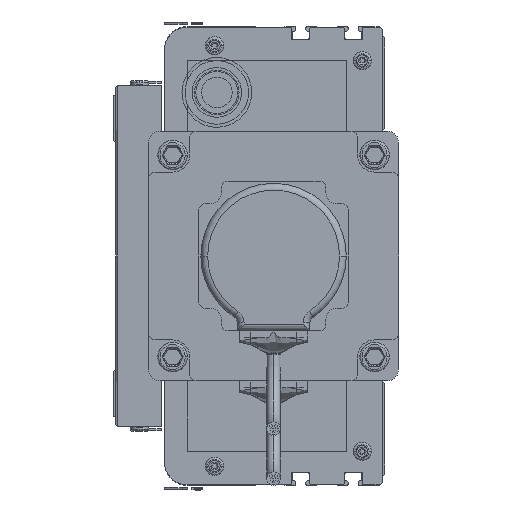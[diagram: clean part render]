
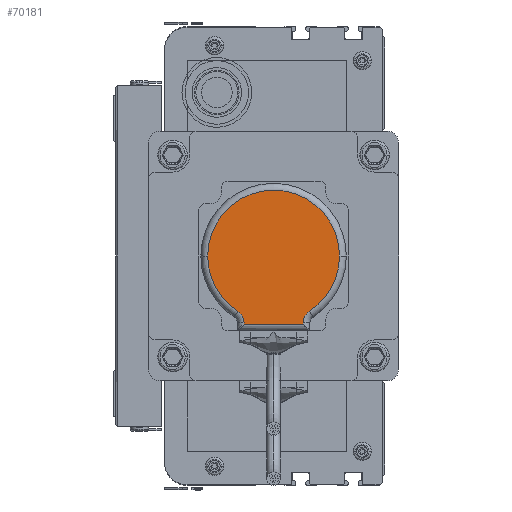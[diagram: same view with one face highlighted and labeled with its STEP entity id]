
A CAD part, left-side view. The second image highlights one B-rep face of the part: STEP entity #70181.
In plain terms, the highlighted planar face has unit normal (-1, 0, 0) as drawn and (0, 0, 1) by its records, which use the part's own axes.
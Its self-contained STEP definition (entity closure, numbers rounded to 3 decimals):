
#69681 = VERTEX_POINT ( 'NONE', #104886 ) ;
#69746 = VERTEX_POINT ( 'NONE', #104967 ) ;
#69768 = EDGE_CURVE ( 'NONE', #69746, #69681, #105009, .T. ) ;
#69945 = VERTEX_POINT ( 'NONE', #78672 ) ;
#70089 = VERTEX_POINT ( 'NONE', #105466 ) ;
#70090 = ORIENTED_EDGE ( 'NONE', *, *, #70092, .T. ) ;
#70091 = ORIENTED_EDGE ( 'NONE', *, *, #69768, .T. ) ;
#70092 = EDGE_CURVE ( 'NONE', #69945, #70095, #105464, .T. ) ;
#70094 = ORIENTED_EDGE ( 'NONE', *, *, #70119, .T. ) ;
#70095 = VERTEX_POINT ( 'NONE', #105462 ) ;
#70098 = VERTEX_POINT ( 'NONE', #105463 ) ;
#70099 = VERTEX_POINT ( 'NONE', #105461 ) ;
#70119 = EDGE_CURVE ( 'NONE', #69681, #69945, #105529, .T. ) ;
#70121 = EDGE_CURVE ( 'NONE', #69746, #70099, #105574, .T. ) ;
#70177 = ORIENTED_EDGE ( 'NONE', *, *, #70418, .T. ) ;
#70181 = ADVANCED_FACE ( 'NONE', ( #79126 ), #79109, .T. ) ;
#70253 = ORIENTED_EDGE ( 'NONE', *, *, #70121, .F. ) ;
#70335 = ORIENTED_EDGE ( 'NONE', *, *, #70443, .T. ) ;
#70336 = EDGE_LOOP ( 'NONE', ( #70253, #70091, #70094, #70090, #70416, #70177, #70441, #70335 ) ) ;
#70416 = ORIENTED_EDGE ( 'NONE', *, *, #70733, .F. ) ;
#70418 = EDGE_CURVE ( 'NONE', #70775, #70089, #79977, .T. ) ;
#70430 = EDGE_CURVE ( 'NONE', #70089, #70098, #105752, .T. ) ;
#70441 = ORIENTED_EDGE ( 'NONE', *, *, #70430, .T. ) ;
#70443 = EDGE_CURVE ( 'NONE', #70098, #70099, #105743, .T. ) ;
#70733 = EDGE_CURVE ( 'NONE', #70775, #70095, #106014, .T. ) ;
#70775 = VERTEX_POINT ( 'NONE', #106046 ) ;
#78672 = CARTESIAN_POINT ( 'NONE',  ( 62., 33., 25. ) ) ;
#79092 = DIRECTION ( 'NONE',  ( 1., 0., 0. ) ) ;
#79109 = PLANE ( 'NONE',  #79120 ) ;
#79117 = DIRECTION ( 'NONE',  ( 0., 0., 1. ) ) ;
#79120 = AXIS2_PLACEMENT_3D ( 'NONE', #79127, #79117, #79092 ) ;
#79126 = FACE_OUTER_BOUND ( 'NONE', #70336, .T. ) ;
#79127 = CARTESIAN_POINT ( 'NONE',  ( 33., 33., 25. ) ) ;
#79973 = DIRECTION ( 'NONE',  ( 0., 1., 0. ) ) ;
#79974 = VECTOR ( 'NONE', #79973, 1000. ) ;
#79975 = CARTESIAN_POINT ( 'NONE',  ( 46., 33., 25. ) ) ;
#79977 = LINE ( 'NONE', #79975, #79974 ) ;
#104886 = CARTESIAN_POINT ( 'NONE',  ( 4., 33., 25. ) ) ;
#104951 = CARTESIAN_POINT ( 'NONE',  ( 33., 33., 25. ) ) ;
#104955 = AXIS2_PLACEMENT_3D ( 'NONE', #104951, #105006, #105005 ) ;
#104967 = CARTESIAN_POINT ( 'NONE',  ( 17.257, 57.355, 25. ) ) ;
#105005 = DIRECTION ( 'NONE',  ( 1., 0., 0. ) ) ;
#105006 = DIRECTION ( 'NONE',  ( 0., 0., 1. ) ) ;
#105009 = CIRCLE ( 'NONE', #104955, 29. ) ;
#105459 = DIRECTION ( 'NONE',  ( 1., 0., 0. ) ) ;
#105460 = DIRECTION ( 'NONE',  ( 0., 0., 1. ) ) ;
#105461 = CARTESIAN_POINT ( 'NONE',  ( 20., 62.394, 25. ) ) ;
#105462 = CARTESIAN_POINT ( 'NONE',  ( 48.743, 57.355, 25. ) ) ;
#105463 = CARTESIAN_POINT ( 'NONE',  ( 20., 63., 25. ) ) ;
#105464 = CIRCLE ( 'NONE', #105465, 29. ) ;
#105465 = AXIS2_PLACEMENT_3D ( 'NONE', #105467, #105460, #105459 ) ;
#105466 = CARTESIAN_POINT ( 'NONE',  ( 46., 63., 25. ) ) ;
#105467 = CARTESIAN_POINT ( 'NONE',  ( 33., 33., 25. ) ) ;
#105529 = CIRCLE ( 'NONE', #105531, 29. ) ;
#105531 = AXIS2_PLACEMENT_3D ( 'NONE', #105585, #105622, #105621 ) ;
#105574 = CIRCLE ( 'NONE', #105584, 6. ) ;
#105584 = AXIS2_PLACEMENT_3D ( 'NONE', #105619, #105618, #105617 ) ;
#105585 = CARTESIAN_POINT ( 'NONE',  ( 33., 33., 25. ) ) ;
#105617 = DIRECTION ( 'NONE',  ( 1., 0., 0. ) ) ;
#105618 = DIRECTION ( 'NONE',  ( 0., 0., 1. ) ) ;
#105619 = CARTESIAN_POINT ( 'NONE',  ( 14., 62.394, 25. ) ) ;
#105621 = DIRECTION ( 'NONE',  ( 1., 0., 0. ) ) ;
#105622 = DIRECTION ( 'NONE',  ( 0., 0., 1. ) ) ;
#105742 = CARTESIAN_POINT ( 'NONE',  ( 20., 33., 25. ) ) ;
#105743 = LINE ( 'NONE', #105742, #105807 ) ;
#105749 = DIRECTION ( 'NONE',  ( -1., 0., 0. ) ) ;
#105750 = VECTOR ( 'NONE', #105749, 1000. ) ;
#105751 = CARTESIAN_POINT ( 'NONE',  ( 17.5, 63., 25. ) ) ;
#105752 = LINE ( 'NONE', #105751, #105750 ) ;
#105806 = DIRECTION ( 'NONE',  ( 0., -1., 0. ) ) ;
#105807 = VECTOR ( 'NONE', #105806, 1000. ) ;
#106011 = CARTESIAN_POINT ( 'NONE',  ( 52., 62.394, 25. ) ) ;
#106012 = AXIS2_PLACEMENT_3D ( 'NONE', #106011, #106067, #106066 ) ;
#106014 = CIRCLE ( 'NONE', #106012, 6. ) ;
#106046 = CARTESIAN_POINT ( 'NONE',  ( 46., 62.394, 25. ) ) ;
#106066 = DIRECTION ( 'NONE',  ( 1., 0., 0. ) ) ;
#106067 = DIRECTION ( 'NONE',  ( 0., 0., 1. ) ) ;
